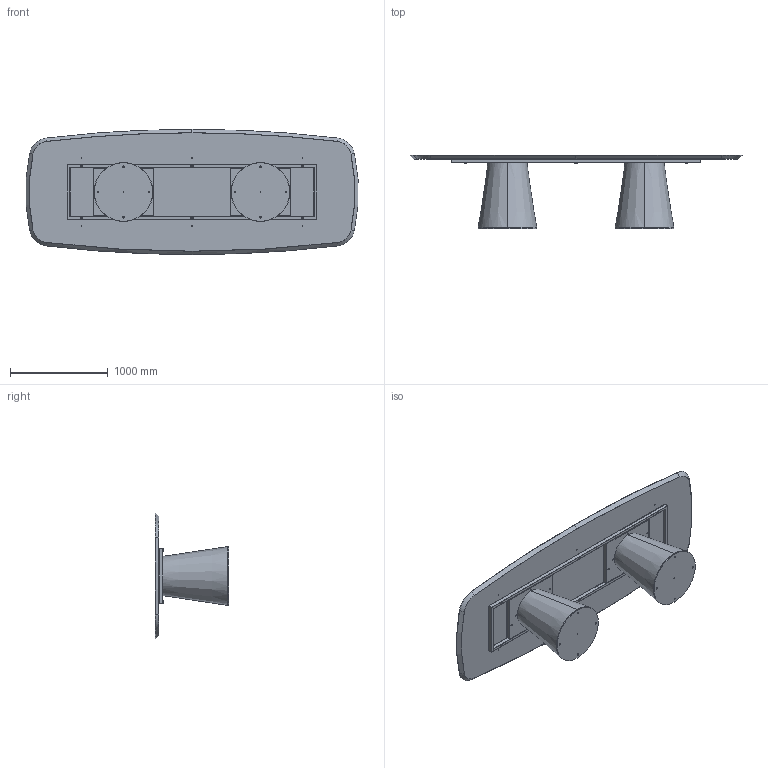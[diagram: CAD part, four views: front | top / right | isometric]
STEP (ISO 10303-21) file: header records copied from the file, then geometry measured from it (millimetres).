
FILE_DESCRIPTION (( 'STEP AP203' ), '1' );
FILE_NAME ('TO48W_Teo_340x128_Wood Shaped.STEP', '2024-08-02T09:42:46', ( '' ), ( '' ), 'SwSTEP 2.0', 'SolidWorks 2022', '' );
FILE_SCHEMA (( 'CONFIG_CONTROL_DESIGN' ));
Length unit declared in the file: millimetre
Products named in the file (12): BASE TED LEGNO CON ZAVORRA; TEO0000-00-TEO BASE LEGNO IMPIALLACCIATA LEVIGATO PRONTA X VERNICE; W4XCMXX-00-Piani Sagomati legno_3400 x 1280; TO48W_Teo_340x128_Wood Shaped; rondella M8_8X24; TTAV03_01-06-RING TUBO TELAIO UNIVERSALE X TAVOLI 300-340cm; TEO000000PIA-00-TEO PIASTRA DI BASE IN METALLO GREZZO; TTAV03_02-06-VASSOIO IRRIGIDIMENTO TELAIO UNIVERSALE RETTANGOLARE; COLLO TELAIO UNIVERSALE TTAV03 CON FERRAMENTA_MTG TOP LEGNO-MARMO-KING; M8xXXmm_M8x55mm; TTAV03-06-TELAIO UNIVERSALE X TAVOLI 300-340cm; M8xXXmm_hex_M8X20mm
Assembly tree (26 placements, depth 4):
  TO48W_Teo_340x128_Wood Shaped
    BASE TED LEGNO CON ZAVORRA  x2
      TEO000000PIA-00-TEO PIASTRA DI BASE IN METALLO GREZZO
      TEO0000-00-TEO BASE LEGNO IMPIALLACCIATA LEVIGATO PRONTA X VERNICE
      M8xXXmm_hex_M8X20mm
    COLLO TELAIO UNIVERSALE TTAV03 CON FERRAMENTA_MTG TOP LEGNO-MARMO-KING
      TTAV03-06-TELAIO UNIVERSALE X TAVOLI 300-340cm
        TTAV03_01-06-RING TUBO TELAIO UNIVERSALE X TAVOLI 300-340cm
        TTAV03_02-06-VASSOIO IRRIGIDIMENTO TELAIO UNIVERSALE RETTANGOLARE  x2
      rondella M8_8X24  x6
      M8xXXmm_M8x55mm  x6
    W4XCMXX-00-Piani Sagomati legno_3400 x 1280
Bounding box: 3390.78 x 751.19 x 1280 mm (x, y, z)
Volume: 208185932.4 mm3; surface area: 17832541.9 mm2
Topology: 28 solids, 28 shells, 1115 faces, 2552 edges, 1465 vertices
Faces by surface type: plane 486, cylinder 321, cone 203, torus 97, sphere 8
Entity records: 15027 total; most frequent: DIRECTION 2473, CARTESIAN_POINT 2313, ORIENTED_EDGE 2156, EDGE_CURVE 1078, AXIS2_PLACEMENT_3D 934, VERTEX_POINT 656, LINE 605, VECTOR 605
